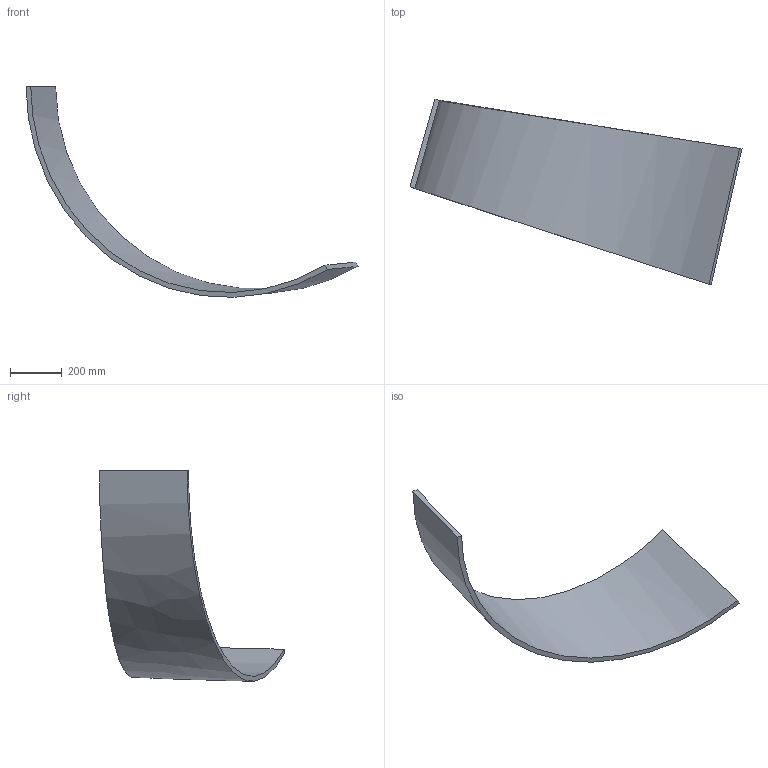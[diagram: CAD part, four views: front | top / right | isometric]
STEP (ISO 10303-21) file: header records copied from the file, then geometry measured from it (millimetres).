
FILE_DESCRIPTION (( 'STEP AP214' ), '1' );
FILE_NAME ('Section 5-A.STEP', '2025-01-09T19:43:27', ( '' ), ( '' ), 'SwSTEP 2.0', 'SolidWorks 2024', '' );
FILE_SCHEMA (( 'AUTOMOTIVE_DESIGN' ));
Length unit declared in the file: inch
Products named in the file (1): Section 5-A
Bounding box: 1289.01 x 718.43 x 817.9 mm (x, y, z)
Volume: 13629907.5 mm3; surface area: 1511805.2 mm2
Topology: 1 solids, 1 shells, 6 faces, 12 edges, 8 vertices
Faces by surface type: bspline 6
Entity records: 315 total; most frequent: CARTESIAN_POINT 201, ORIENTED_EDGE 24, B_SPLINE_CURVE_WITH_KNOTS 12, EDGE_CURVE 12, VERTEX_POINT 8, B_SPLINE_SURFACE_WITH_KNOTS 6, ADVANCED_FACE 6, EDGE_LOOP 6
